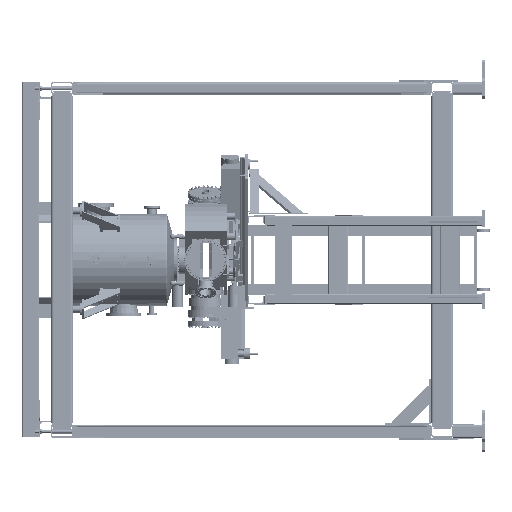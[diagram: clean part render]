
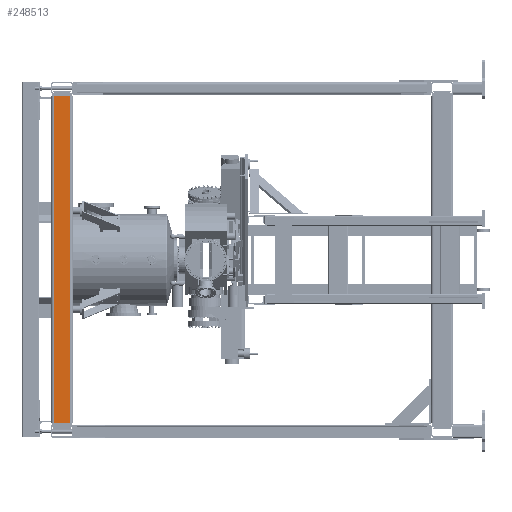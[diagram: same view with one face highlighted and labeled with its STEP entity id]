
A CAD part, left-side view. The second image highlights one B-rep face of the part: STEP entity #248513.
In plain terms, the highlighted planar face has unit normal (-1, 0, 0) as drawn and (1, 0, 0) by its records, which use the part's own axes.
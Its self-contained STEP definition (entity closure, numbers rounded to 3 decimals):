
#248266=CARTESIAN_POINT('',(1335.0,1172.5,975.));
#248267=VERTEX_POINT('',#248266);
#248275=CARTESIAN_POINT('',(1335.0,-1172.5,975.));
#248276=VERTEX_POINT('',#248275);
#248277=CARTESIAN_POINT('',(1335.0,0.,975.));
#248278=DIRECTION('',(-0.0,1.0,-0.0));
#248279=VECTOR('',#248278,1.0);
#248280=LINE('',#248277,#248279);
#248281=EDGE_CURVE('no 887',#248276,#248267,#248280,.T.);
#248483=CARTESIAN_POINT('',(1335.0,1172.5,1095.));
#248484=VERTEX_POINT('',#248483);
#248485=CARTESIAN_POINT('',(1335.0,1172.5,1035.));
#248486=DIRECTION('',(0.0,0.0,1.0));
#248487=VECTOR('',#248486,1.0);
#248488=LINE('',#248485,#248487);
#248489=EDGE_CURVE('no 468',#248267,#248484,#248488,.T.);
#248490=ORIENTED_EDGE('',*,*,#248489,.T.);
#248491=CARTESIAN_POINT('',(1335.0,-1172.5,1095.));
#248492=VERTEX_POINT('',#248491);
#248493=CARTESIAN_POINT('',(1335.0,0.,1095.));
#248494=DIRECTION('',(-0.0,1.0,-0.0));
#248495=VECTOR('',#248494,1.0);
#248496=LINE('',#248493,#248495);
#248497=EDGE_CURVE('no 825',#248492,#248484,#248496,.T.);
#248498=ORIENTED_EDGE('',*,*,#248497,.F.);
#248499=CARTESIAN_POINT('',(1335.0,-1172.5,1035.));
#248500=DIRECTION('',(0.0,0.0,1.0));
#248501=VECTOR('',#248500,1.0);
#248502=LINE('',#248499,#248501);
#248503=EDGE_CURVE('no 25',#248276,#248492,#248502,.T.);
#248504=ORIENTED_EDGE('',*,*,#248503,.F.);
#248505=ORIENTED_EDGE('',*,*,#248281,.T.);
#248506=EDGE_LOOP('',(#248490,#248498,#248504,#248505));
#248507=FACE_OUTER_BOUND('',#248506,.T.);
#248508=CARTESIAN_POINT('',(1335.0,0.,1095.));
#248509=DIRECTION('',(1.0,0.0,-0.0));
#248510=DIRECTION('',(-0.0,1.0,-0.0));
#248511=AXIS2_PLACEMENT_3D('',#248508,#248509,#248510);
#248512=PLANE('',#248511);
#248513=ADVANCED_FACE('no 885',(#248507),#248512,.T.);
